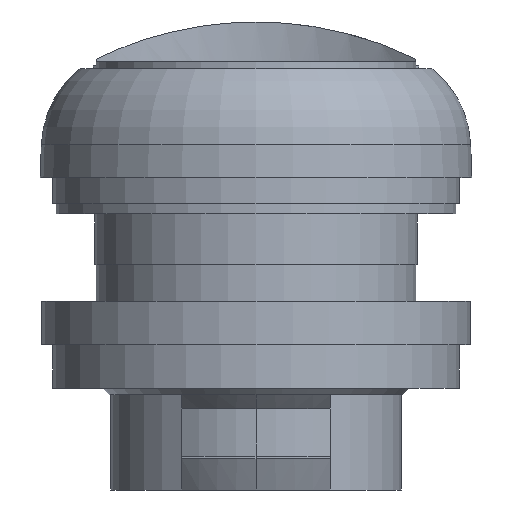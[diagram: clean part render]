
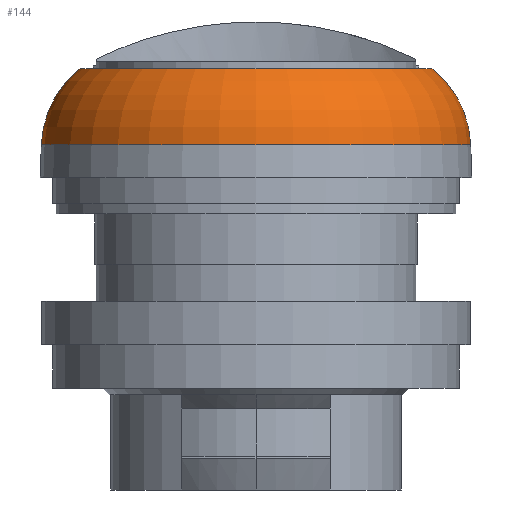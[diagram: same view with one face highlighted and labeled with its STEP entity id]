
A CAD part, front view. The second image highlights one B-rep face of the part: STEP entity #144.
In plain terms, the highlighted toroidal (fillet/blend) face has major radius 7.776 mm and minor radius 7 mm.
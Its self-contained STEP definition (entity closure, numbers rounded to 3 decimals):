
#144 = ADVANCED_FACE( '', ( #306 ), #307, .T. );
#306 = FACE_OUTER_BOUND( '', #494, .T. );
#307 = TOROIDAL_SURFACE( '', #495, 7.776, 7. );
#494 = EDGE_LOOP( '', ( #1040, #1041, #1042, #1043 ) );
#495 = AXIS2_PLACEMENT_3D( '', #1044, #1045, #1046 );
#1040 = ORIENTED_EDGE( '', *, *, #1383, .F. );
#1041 = ORIENTED_EDGE( '', *, *, #1384, .F. );
#1042 = ORIENTED_EDGE( '', *, *, #1385, .F. );
#1043 = ORIENTED_EDGE( '', *, *, #1386, .T. );
#1044 = CARTESIAN_POINT( '', ( 0., -12.5, 23.5 ) );
#1045 = DIRECTION( '', ( 0., 0., -1. ) );
#1046 = DIRECTION( '', ( -1., 0., 0. ) );
#1383 = EDGE_CURVE( '', #1702, #1703, #1704, .T. );
#1384 = EDGE_CURVE( '', #1705, #1702, #1706, .T. );
#1385 = EDGE_CURVE( '', #1707, #1705, #1708, .T. );
#1386 = EDGE_CURVE( '', #1707, #1703, #1709, .T. );
#1702 = VERTEX_POINT( '', #2252 );
#1703 = VERTEX_POINT( '', #2253 );
#1704 = CIRCLE( '', #2254, 7. );
#1705 = VERTEX_POINT( '', #2255 );
#1706 = CIRCLE( '', #2256, 14.772 );
#1707 = VERTEX_POINT( '', #2257 );
#1708 = CIRCLE( '', #2258, 7. );
#1709 = CIRCLE( '', #2259, 12.106 );
#2252 = CARTESIAN_POINT( '', ( -14.772, -12.5, 23.744 ) );
#2253 = CARTESIAN_POINT( '', ( -12.106, -12.5, 29. ) );
#2254 = AXIS2_PLACEMENT_3D( '', #2615, #2616, #2617 );
#2255 = CARTESIAN_POINT( '', ( 14.772, -12.5, 23.744 ) );
#2256 = AXIS2_PLACEMENT_3D( '', #2618, #2619, #2620 );
#2257 = CARTESIAN_POINT( '', ( 12.106, -12.5, 29. ) );
#2258 = AXIS2_PLACEMENT_3D( '', #2621, #2622, #2623 );
#2259 = AXIS2_PLACEMENT_3D( '', #2624, #2625, #2626 );
#2615 = CARTESIAN_POINT( '', ( -7.776, -12.5, 23.5 ) );
#2616 = DIRECTION( '', ( 0., 1., 0. ) );
#2617 = DIRECTION( '', ( -0.999, 0., 0.035 ) );
#2618 = CARTESIAN_POINT( '', ( 0., -12.5, 23.744 ) );
#2619 = DIRECTION( '', ( 0., 0., -1. ) );
#2620 = DIRECTION( '', ( 1., 0., 0. ) );
#2621 = CARTESIAN_POINT( '', ( 7.776, -12.5, 23.5 ) );
#2622 = DIRECTION( '', ( 0., 1., 0. ) );
#2623 = DIRECTION( '', ( 0.619, 0., 0.786 ) );
#2624 = CARTESIAN_POINT( '', ( 0., -12.5, 29. ) );
#2625 = DIRECTION( '', ( 0., 0., -1. ) );
#2626 = DIRECTION( '', ( 1., 0., 0. ) );
